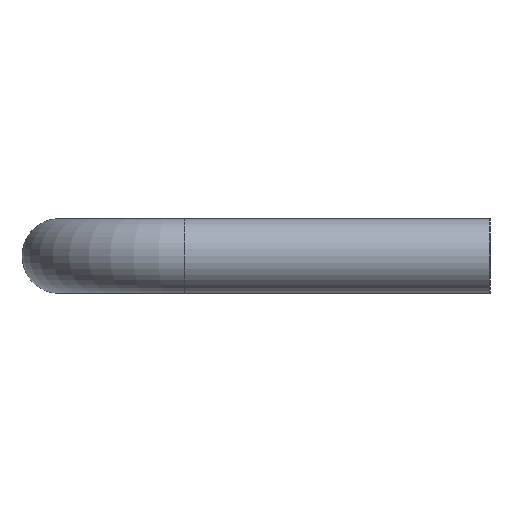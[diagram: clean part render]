
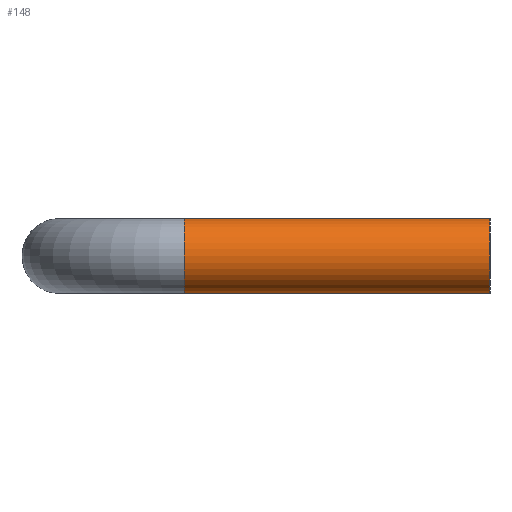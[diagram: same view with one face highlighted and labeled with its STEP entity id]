
A CAD part, left-side view. The second image highlights one B-rep face of the part: STEP entity #148.
In plain terms, the highlighted cylindrical face has radius 6 mm (diameter 12 mm), a full revolution.
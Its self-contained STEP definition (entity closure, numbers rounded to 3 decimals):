
#28=CYLINDRICAL_SURFACE('',#176,6.);
#35=ORIENTED_EDGE('',*,*,#59,.F.);
#36=ORIENTED_EDGE('',*,*,#57,.T.);
#57=EDGE_CURVE('',#69,#69,#83,.T.);
#59=EDGE_CURVE('',#71,#71,#85,.T.);
#69=VERTEX_POINT('',#253);
#71=VERTEX_POINT('',#258);
#83=CIRCLE('',#174,6.);
#85=CIRCLE('',#177,6.);
#97=EDGE_LOOP('',(#35));
#98=EDGE_LOOP('',(#36));
#121=FACE_BOUND('',#97,.T.);
#122=FACE_BOUND('',#98,.T.);
#148=ADVANCED_FACE('',(#121,#122),#28,.T.);
#174=AXIS2_PLACEMENT_3D('',#252,#202,#203);
#176=AXIS2_PLACEMENT_3D('',#256,#206,#207);
#177=AXIS2_PLACEMENT_3D('',#257,#208,#209);
#202=DIRECTION('',(0.,1.,0.));
#203=DIRECTION('',(0.,0.,1.));
#206=DIRECTION('',(0.,1.,0.));
#207=DIRECTION('',(0.,0.,1.));
#208=DIRECTION('',(0.,1.,0.));
#209=DIRECTION('',(0.,0.,1.));
#252=CARTESIAN_POINT('',(-62.5,0.,0.));
#253=CARTESIAN_POINT('',(-62.5,0.,6.));
#256=CARTESIAN_POINT('',(-62.5,49.,0.));
#257=CARTESIAN_POINT('',(-62.5,49.,0.));
#258=CARTESIAN_POINT('',(-62.5,49.,6.));
